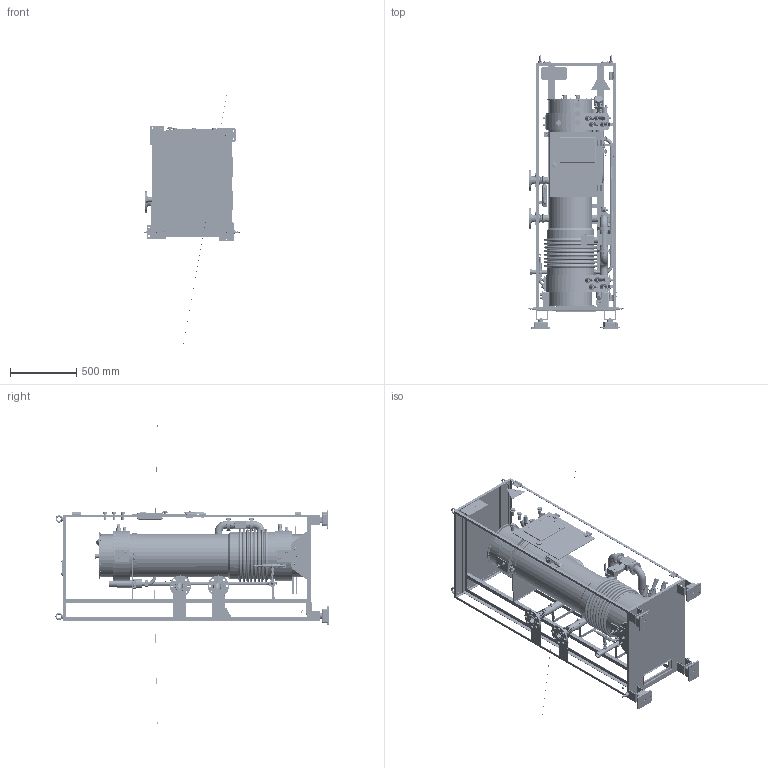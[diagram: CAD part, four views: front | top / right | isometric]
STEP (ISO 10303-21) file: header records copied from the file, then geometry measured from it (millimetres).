
FILE_DESCRIPTION (( 'STEP AP214' ), '1' );
FILE_NAME ('ÐÁÌÂ_1_â_øêàôó.STEP', '2025-08-06T17:07:15', ( '' ), ( '' ), 'SwSTEP 2.0', 'SolidWorks 2024', '' );
FILE_SCHEMA (( 'AUTOMOTIVE_DESIGN' ));
Length unit declared in the file: millimetre
Products named in the file (131): Воздухотв valtec 3-4 - а; петля; 309; 000-00рметр; предклапан; болтовая сборка 2; пк; 900-2; Клапан предохр Ду 20 Рр 10 - а; Знак напряжение-1; нг7; 10х57; вкр; Вилка 48-1; д32; датчик-реле уровня РОС-121-1; hex screw gradeab_iso_ISO 4017 - M6 x 12-N; шкаф эскиз; 4нагва 90 прдальняя; гойке; Петля угловая 100 27-1; hex screw gradeab_iso_ISO 4017 - M4 x 16-N; Синальная лампа зеленая; атебобуз; шланг  клап тр пров - а- дек-1_гофрир<Как обработанный>; 30х30х1860-пр; кран шаровый 1.5 ш; hex nut style 1 gradeab_iso_ISO - 4032 - M4 - W - N; curved spring lock washer_din_Spring washer DIN 128 - A6; ЛСПТ.000.20.1СБ Кронштейн дренажного трубопровода; 4нагва 90 правая; Дачт потока MRS; 001.115ГКА; 3434343434; 30х30х3; платте; Сильфонный компенсатор D325; 001.114 ЗЕМЛЯ БОНКА; ПНДР.Муфта резьб ду20-сент_ниппель; журбакаркас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
Assembly tree (288 placements, depth 5):
  РБМВ_1_в_шкафу
    шкаф эскиз
      платте
      шкаф с дном
        журбакаркас
        4нагва 90
        4нагва 90 прдальняя
        акс160м  x2
      hex screw gradec_iso_ISO 4018 - M12 x 25-WN  x4
      0000000000000-0000000000000000000  x2
      001.300БОНГО  x2
        001.114 ЗЕМЛЯ БОНКА
        001.115ГКА
        plain washer small grade a_iso_Washer ISO 7092 - 10
        001.114 ШПИЛЬКА ЗЕМЛЯ3
      Знак напряжение-1
      Рымболт М12-1  x4
      Петля угловая 100-1  x4
        Основание петли 100 27-1
        Петля угловая 100 27-1
      3434343434
      206.20.20.01.34-шз-6
      3D модель СП310-Р
      plastic knurled screws with small head a gb_GB_KNURLED_SCREWS_TYPE5 M16X30-N
      Табличка рбмв1
      Синальная лампа желтая
      Синальная лампа зеленая
      Синальная лампа красная
      30х30х3  x2
      30х30х1860
      30х30х1860-пр
      30х30х1830  x2
      363
      дноег
      900
      900-2
      держамка  x4
        дуггеенг
        эпштейний
        hex screw gradeab_iso_ISO 4017 - M6 x 12-N
        plain washer small grade a_iso_Washer ISO 7092 - 6
        hex nut style 1 gradeab_iso_ISO - 4032 - M6 - W - N
      309  x2
      ЛСПТ.000.20.1СБ Кронштейн дренажного трубопровода
        штанмайер
        варштайнер
        hex nut style 1 gradeab_iso_ISO - 4032 - M4 - W - N  x2
        plain washer small grade a_iso_Washer ISO 7092 - 4  x4
        hex screw gradeab_iso_ISO 4017 - M4 x 16-N  x2
        кальцоне
        309
        зоеббист
          штанмайер
          варштайнер
          hex nut style 1 gradeab_iso_ISO - 4032 - M4 - W - N  x2
          plain washer small grade a_iso_Washer ISO 7092 - 4  x4
          hex screw gradeab_iso_ISO 4017 - M4 x 16-N  x2
          кальцоне
      309зем
      Синальная лампа синяя
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Bounding box: 716 x 2055.58 x 2499.09 mm (x, y, z)
Volume: 47289577.4 mm3; surface area: 28141611.2 mm2
Topology: 712 solids, 712 shells, 20701 faces, 51427 edges, 32547 vertices
Faces by surface type: cylinder 9677, plane 7370, cone 1629, bspline 1126, torus 798, sphere 101
Entity records: 497703 total; most frequent: CARTESIAN_POINT 153678, DIRECTION 71186, ORIENTED_EDGE 68826, EDGE_CURVE 34413, AXIS2_PLACEMENT_3D 27730, VERTEX_POINT 22139, EDGE_LOOP 18116, LINE 15726
